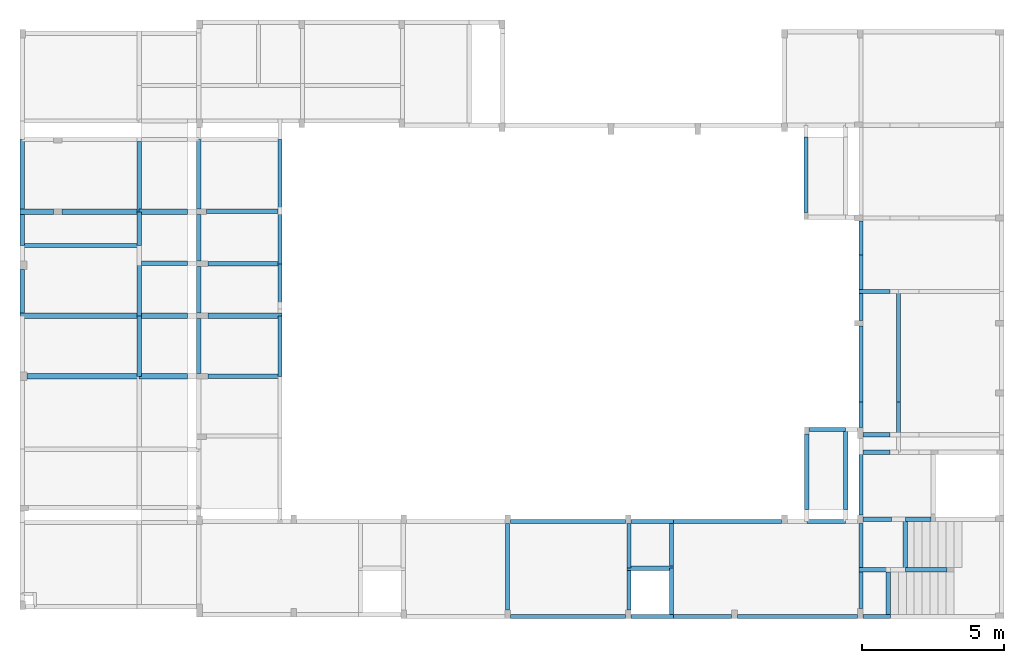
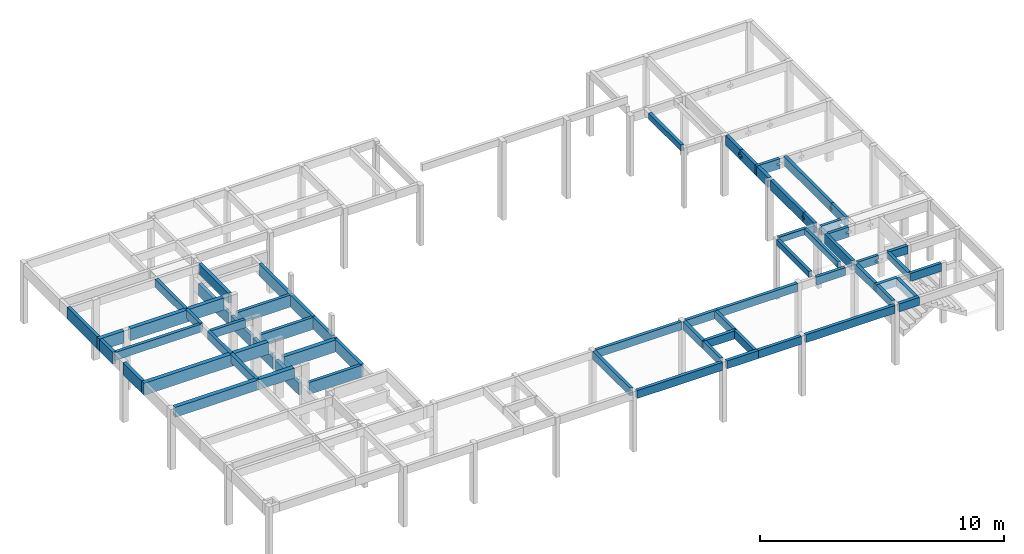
# One storey, part 2 of 21: 67 beams, 10 openings.
"""IFC4 building model written with IfcOpenShell, lengths in centimetres."""

from ifc_helpers import new_model, si_unit, derived_unit, frame, origin_with_axes, origin_2d_with_axis, place, context, project, spatial, rectangle, extrude, material, element, save


model = new_model("IFC4")

# Units and contexts
model_context = context("Model", 3, precision=1e-05, world=origin_with_axes(), identifier="Body")
ifc_project = project(units=[si_unit("LENGTHUNIT", "METRE", prefix="CENTI"), si_unit("VOLUMEUNIT", "CUBIC_METRE"), si_unit("AREAUNIT", "SQUARE_METRE"), si_unit("POWERUNIT", "WATT"), si_unit("LUMINOUSFLUXUNIT", "LUMEN"), si_unit("ELECTRICCURRENTUNIT", "AMPERE"), si_unit("PRESSUREUNIT", "PASCAL", prefix="KILO"), si_unit("MASSUNIT", "GRAM", prefix="KILO"), si_unit("PLANEANGLEUNIT", "RADIAN"), derived_unit("VOLUMETRICFLOWRATEUNIT", [(si_unit("LENGTHUNIT", "METRE"), 3), (si_unit("TIMEUNIT", "SECOND"), -1)])], contexts=[model_context])

# Site, building, storey
site_placement = place(None, origin_with_axes())
site = spatial("IfcSite", under=ifc_project, at=site_placement)
building_placement = place(site_placement, frame((0.0, 0.0, -295.0)))
building = spatial("IfcBuilding", under=site, at=building_placement)
placement_1 = place(building_placement, origin_with_axes())
placement_2 = place(placement_1, frame((0.0, 0.0, 101.0), z_axis=(0.0, 0.0, 1.0), x_axis=(1.0, 0.0, 0.0)))
placement_3 = place(placement_2, frame((0.0, 0.0, 204.0), z_axis=(0.0, 0.0, 1.0), x_axis=(1.0, 0.0, 0.0)))
placement_4 = place(placement_3, frame((0.0, 0.0, 292.0), z_axis=(0.0, 0.0, 1.0), x_axis=(1.0, 0.0, 0.0)))
storey_placement = place(placement_4, frame((0.0, 0.0, 302.0), z_axis=(0.0, 0.0, 1.0), x_axis=(1.0, 0.0, 0.0)))
storey = spatial("IfcBuildingStorey", under=building, at=storey_placement, Name="PAVTO 02", CompositionType="ELEMENT", Elevation=604.0)

# Beams
ifc_material = material(Name="Concreto")
beam_1_placement = place(storey_placement, frame((610.33, -5746.84, 0.0), z_axis=(0.0, 0.0, 1.0), x_axis=(1.0, 0.0, 0.0)))
element("IfcBeam", 1, at=beam_1_placement, inside=storey, material=ifc_material, Name="V211", context=model_context, shape_type="SolidModel", body=[
    extrude(rectangle(XDim=20.0, YDim=60.0, at=origin_2d_with_axis()), frame((-58.6, 0.0, -30.0), z_axis=(1.0, 0.0, 0.0), x_axis=(0.0, -1.0, 0.0)), (0.0, 0.0, 1.0), 117.2),
])
beam_2_placement = place(storey_placement, frame((1056.235, -5746.84, 0.0), z_axis=(0.0, 0.0, 1.0), x_axis=(1.0, 0.0, 0.0)))
element("IfcBeam", 2, at=beam_2_placement, inside=storey, material=ifc_material, Name="V211", context=model_context, shape_type="SolidModel", body=[
    extrude(rectangle(XDim=20.0, YDim=60.0, at=origin_2d_with_axis()), frame((-84.665, 0.0, -30.0), z_axis=(1.0, 0.0, 0.0), x_axis=(0.0, -1.0, 0.0)), (0.0, 0.0, 1.0), 169.33),
])
beam_3_placement = place(storey_placement, frame((835.25, -5746.84, 0.0), z_axis=(0.0, 0.0, 1.0), x_axis=(1.0, 0.0, 0.0)))
element("IfcBeam", 3, at=beam_3_placement, inside=storey, material=ifc_material, Name="V211", context=model_context, shape_type="SolidModel", body=[
    extrude(rectangle(XDim=20.0, YDim=60.0, at=origin_2d_with_axis()), frame((-136.32, 0.0, -30.0), z_axis=(1.0, 0.0, 0.0), x_axis=(0.0, -1.0, 0.0)), (0.0, 0.0, 1.0), 272.64),
])
beam_4_placement = place(storey_placement, frame((765.4, -5865.05, 0.0), z_axis=(0.0, 0.0, 1.0), x_axis=(1.0, 0.0, 0.0)))
element("IfcBeam", 4, at=beam_4_placement, inside=storey, material=ifc_material, Name="V214", context=model_context, shape_type="SolidModel", body=[
    extrude(rectangle(XDim=15.0, YDim=40.0, at=origin_2d_with_axis()), frame((-206.17, 0.0, -20.0), z_axis=(1.0, 0.0, 0.0), x_axis=(0.0, -1.0, 0.0)), (0.0, 0.0, 1.0), 412.34),
])
beam_5_placement = place(storey_placement, frame((1059.985, -5927.35, 0.0), z_axis=(0.0, 0.0, 1.0), x_axis=(1.0, 0.0, 0.0)))
element("IfcBeam", 5, at=beam_5_placement, inside=storey, material=ifc_material, Name="V215", context=model_context, shape_type="SolidModel", body=[
    extrude(rectangle(XDim=15.0, YDim=40.0, at=origin_2d_with_axis()), frame((-80.915, 0.0, -20.0), z_axis=(1.0, 0.0, 0.0), x_axis=(0.0, -1.0, 0.0)), (0.0, 0.0, 1.0), 161.83),
])

# Beam, opening
beam_6_placement = place(storey_placement, frame((3560.565, -6027.05, 0.0), z_axis=(0.0, 0.0, 1.0), x_axis=(1.0, 0.0, 0.0)))
beam_6 = element("IfcBeam", 6, at=beam_6_placement, inside=storey, material=ifc_material, Name="V216", context=model_context, shape_type="SolidModel", body=[
    extrude(rectangle(XDim=15.0, YDim=50.0, at=origin_2d_with_axis()), frame((-54.835, 0.0, -25.0), z_axis=(1.0, 0.0, 0.0), x_axis=(0.0, -1.0, 0.0)), (0.0, 0.0, 1.0), 109.67),
])
opening_1_placement = place(storey_placement, frame((3615.4, -6027.05, -20.0), z_axis=(0.0, 0.0, 1.0), x_axis=(1.0, 0.0, 0.0)))
element("IfcOpeningElement", 7, at=opening_1_placement, cuts=beam_6, material=ifc_material, Name="V216 - Abertura 1", context=model_context, shape_type="SweptSolid", body=[
    extrude(rectangle(XDim=25.0, YDim=10.0, at=origin_2d_with_axis()), frame((0.0, -7.6, -5.0), z_axis=(0.0, 1.0, 0.0), x_axis=(-1.0, 0.0, 0.0)), (0.0, 0.0, 1.0), 15.2),
])

# Beams
beam_7_placement = place(storey_placement, frame((1056.235, -6112.7, 0.0), z_axis=(0.0, 0.0, 1.0), x_axis=(1.0, 0.0, 0.0)))
element("IfcBeam", 8, at=beam_7_placement, inside=storey, material=ifc_material, Name="V217", context=model_context, shape_type="SolidModel", body=[
    extrude(rectangle(XDim=20.0, YDim=60.0, at=origin_2d_with_axis()), frame((-84.665, 0.0, -30.0), z_axis=(1.0, 0.0, 0.0), x_axis=(0.0, -1.0, 0.0)), (0.0, 0.0, 1.0), 169.33),
])
beam_8_placement = place(storey_placement, frame((761.65, -6112.7, 0.0), z_axis=(0.0, 0.0, 1.0), x_axis=(1.0, 0.0, 0.0)))
element("IfcBeam", 9, at=beam_8_placement, inside=storey, material=ifc_material, Name="V217", context=model_context, shape_type="SolidModel", body=[
    extrude(rectangle(XDim=20.0, YDim=60.0, at=origin_2d_with_axis()), frame((-209.92, 0.0, -30.0), z_axis=(1.0, 0.0, 0.0), x_axis=(0.0, -1.0, 0.0)), (0.0, 0.0, 1.0), 419.84),
])
beam_9_placement = place(storey_placement, frame((1056.235, -6325.62, 0.0), z_axis=(0.0, 0.0, 1.0), x_axis=(1.0, 0.0, 0.0)))
element("IfcBeam", 10, at=beam_9_placement, inside=storey, material=ifc_material, Name="V218", context=model_context, shape_type="SolidModel", body=[
    extrude(rectangle(XDim=20.0, YDim=50.0, at=origin_2d_with_axis()), frame((-84.665, 0.0, -25.0), z_axis=(1.0, 0.0, 0.0), x_axis=(0.0, -1.0, 0.0)), (0.0, 0.0, 1.0), 169.33),
])
beam_10_placement = place(storey_placement, frame((774.15, -6325.62, 0.0), z_axis=(0.0, 0.0, 1.0), x_axis=(1.0, 0.0, 0.0)))
element("IfcBeam", 11, at=beam_10_placement, inside=storey, material=ifc_material, Name="V218", context=model_context, shape_type="SolidModel", body=[
    extrude(rectangle(XDim=20.0, YDim=50.0, at=origin_2d_with_axis()), frame((-197.42, 0.0, -25.0), z_axis=(1.0, 0.0, 0.0), x_axis=(0.0, -1.0, 0.0)), (0.0, 0.0, 1.0), 394.84),
])
beam_11_placement = place(storey_placement, frame((3394.48, -6513.05, 0.0), z_axis=(0.0, 0.0, 1.0), x_axis=(1.0, 0.0, 0.0)))
element("IfcBeam", 12, at=beam_11_placement, inside=storey, material=ifc_material, Name="V219", context=model_context, shape_type="SolidModel", body=[
    extrude(rectangle(XDim=15.0, YDim=30.0, at=origin_2d_with_axis()), frame((-64.75, 0.0, -15.0), z_axis=(1.0, 0.0, 0.0), x_axis=(0.0, -1.0, 0.0)), (0.0, 0.0, 1.0), 129.5),
])

# Beam, opening
beam_12_placement = place(storey_placement, frame((3568.065, -6532.05, 0.0), z_axis=(0.0, 0.0, 1.0), x_axis=(1.0, 0.0, 0.0)))
beam_12 = element("IfcBeam", 13, at=beam_12_placement, inside=storey, material=ifc_material, Name="V220", context=model_context, shape_type="SolidModel", body=[
    extrude(rectangle(XDim=15.0, YDim=45.0, at=origin_2d_with_axis()), frame((-47.335, 0.0, -22.5), z_axis=(1.0, 0.0, 0.0), x_axis=(0.0, -1.0, 0.0)), (0.0, 0.0, 1.0), 94.67),
])
opening_2_placement = place(storey_placement, frame((3615.4, -6532.05, -20.0), z_axis=(0.0, 0.0, 1.0), x_axis=(1.0, 0.0, 0.0)))
element("IfcOpeningElement", 14, at=opening_2_placement, cuts=beam_12, material=ifc_material, Name="V220 - Abertura 1", context=model_context, shape_type="SweptSolid", body=[
    extrude(rectangle(XDim=25.0, YDim=10.0, at=origin_2d_with_axis()), frame((0.0, -7.6, -5.0), z_axis=(0.0, 1.0, 0.0), x_axis=(-1.0, 0.0, 0.0)), (0.0, 0.0, 1.0), 15.2),
])

beam_13_placement = place(storey_placement, frame((3568.065, -6592.81, 0.0), z_axis=(0.0, 0.0, 1.0), x_axis=(1.0, 0.0, 0.0)))
beam_13 = element("IfcBeam", 15, at=beam_13_placement, inside=storey, material=ifc_material, Name="V223", context=model_context, shape_type="SolidModel", body=[
    extrude(rectangle(XDim=15.0, YDim=50.0, at=origin_2d_with_axis()), frame((-47.335, 0.0, -25.0), z_axis=(1.0, 0.0, 0.0), x_axis=(0.0, -1.0, 0.0)), (0.0, 0.0, 1.0), 94.67),
])
opening_3_placement = place(storey_placement, frame((3615.4, -6592.81, -20.0), z_axis=(0.0, 0.0, 1.0), x_axis=(1.0, 0.0, 0.0)))
element("IfcOpeningElement", 16, at=opening_3_placement, cuts=beam_13, material=ifc_material, Name="V223 - Abertura 1", context=model_context, shape_type="SweptSolid", body=[
    extrude(rectangle(XDim=25.0, YDim=10.0, at=origin_2d_with_axis()), frame((0.0, -7.6, -5.0), z_axis=(0.0, 1.0, 0.0), x_axis=(-1.0, 0.0, 0.0)), (0.0, 0.0, 1.0), 15.2),
])

# Beams
beam_14_placement = place(storey_placement, frame((3039.915, -6836.7, 0.0), z_axis=(0.0, 0.0, 1.0), x_axis=(1.0, 0.0, 0.0)))
element("IfcBeam", 17, at=beam_14_placement, inside=storey, material=ifc_material, Name="V227", context=model_context, shape_type="SolidModel", body=[
    extrude(rectangle(XDim=15.0, YDim=40.0, at=origin_2d_with_axis()), frame((-193.815, 0.0, -20.0), z_axis=(1.0, 0.0, 0.0), x_axis=(0.0, -1.0, 0.0)), (0.0, 0.0, 1.0), 387.63),
])
beam_15_placement = place(storey_placement, frame((2481.165, -6836.7, 0.0), z_axis=(0.0, 0.0, 1.0), x_axis=(1.0, 0.0, 0.0)))
element("IfcBeam", 18, at=beam_15_placement, inside=storey, material=ifc_material, Name="V227", context=model_context, shape_type="SolidModel", body=[
    extrude(rectangle(XDim=15.0, YDim=40.0, at=origin_2d_with_axis()), frame((-202.435, 0.0, -20.0), z_axis=(1.0, 0.0, 0.0), x_axis=(0.0, -1.0, 0.0)), (0.0, 0.0, 1.0), 404.87),
])
beam_16_placement = place(storey_placement, frame((3390.73, -6836.7, 0.0), z_axis=(0.0, 0.0, 1.0), x_axis=(1.0, 0.0, 0.0)))
element("IfcBeam", 19, at=beam_16_placement, inside=storey, material=ifc_material, Name="V227", context=model_context, shape_type="SolidModel", body=[
    extrude(rectangle(XDim=15.0, YDim=40.0, at=origin_2d_with_axis()), frame((-68.5, 0.0, -20.0), z_axis=(1.0, 0.0, 0.0), x_axis=(0.0, -1.0, 0.0)), (0.0, 0.0, 1.0), 137.0),
])
beam_17_placement = place(storey_placement, frame((2778.6, -6836.7, 0.0), z_axis=(0.0, 0.0, 1.0), x_axis=(1.0, 0.0, 0.0)))
element("IfcBeam", 20, at=beam_17_placement, inside=storey, material=ifc_material, Name="V227", context=model_context, shape_type="SolidModel", body=[
    extrude(rectangle(XDim=15.0, YDim=40.0, at=origin_2d_with_axis()), frame((-75.0, 0.0, -20.0), z_axis=(1.0, 0.0, 0.0), x_axis=(0.0, -1.0, 0.0)), (0.0, 0.0, 1.0), 150.0),
])
beam_18_placement = place(storey_placement, frame((3714.495, -6828.79, 0.0), z_axis=(0.0, 0.0, 1.0), x_axis=(1.0, 0.0, 0.0)))
element("IfcBeam", 21, at=beam_18_placement, inside=storey, material=ifc_material, Name="V228", context=model_context, shape_type="SolidModel", body=[
    extrude(rectangle(XDim=15.0, YDim=40.0, at=origin_2d_with_axis()), frame((-45.235, 0.0, -20.0), z_axis=(1.0, 0.0, 0.0), x_axis=(0.0, -1.0, 0.0)), (0.0, 0.0, 1.0), 90.47),
])

# Beam, opening
beam_19_placement = place(storey_placement, frame((3570.565, -6828.79, 0.0), z_axis=(0.0, 0.0, 1.0), x_axis=(1.0, 0.0, 0.0)))
beam_19 = element("IfcBeam", 22, at=beam_19_placement, inside=storey, material=ifc_material, Name="V228", context=model_context, shape_type="SolidModel", body=[
    extrude(rectangle(XDim=15.0, YDim=40.0, at=origin_2d_with_axis()), frame((-49.835, 0.0, -20.0), z_axis=(1.0, 0.0, 0.0), x_axis=(0.0, -1.0, 0.0)), (0.0, 0.0, 1.0), 99.67),
])
opening_4_placement = place(storey_placement, frame((3620.4, -6828.79, -20.0), z_axis=(0.0, 0.0, 1.0), x_axis=(1.0, 0.0, 0.0)))
element("IfcOpeningElement", 23, at=opening_4_placement, cuts=beam_19, material=ifc_material, Name="V228 - Abertura 1", context=model_context, shape_type="SweptSolid", body=[
    extrude(rectangle(XDim=35.0, YDim=10.0, at=origin_2d_with_axis()), frame((0.0, -7.6, -5.0), z_axis=(0.0, 1.0, 0.0), x_axis=(-1.0, 0.0, 0.0)), (0.0, 0.0, 1.0), 15.2),
])

# Beams
beam_20_placement = place(storey_placement, frame((2771.1, -7001.64, 0.0), z_axis=(0.0, 0.0, 1.0), x_axis=(1.0, 0.0, 0.0)))
element("IfcBeam", 24, at=beam_20_placement, inside=storey, material=ifc_material, Name="V230", context=model_context, shape_type="SolidModel", body=[
    extrude(rectangle(XDim=15.0, YDim=40.0, at=origin_2d_with_axis()), frame((-82.5, 0.0, -20.0), z_axis=(1.0, 0.0, 0.0), x_axis=(0.0, -1.0, 0.0)), (0.0, 0.0, 1.0), 165.0),
])
beam_21_placement = place(storey_placement, frame((3557.41, -7006.81, 0.0), z_axis=(0.0, 0.0, 1.0), x_axis=(1.0, 0.0, 0.0)))
element("IfcBeam", 25, at=beam_21_placement, inside=storey, material=ifc_material, Name="V231", context=model_context, shape_type="SolidModel", body=[
    extrude(rectangle(XDim=15.0, YDim=40.0, at=origin_2d_with_axis()), frame((-51.68, 0.0, -20.0), z_axis=(1.0, 0.0, 0.0), x_axis=(0.0, -1.0, 0.0)), (0.0, 0.0, 1.0), 103.36),
])
beam_22_placement = place(storey_placement, frame((3742.425, -7006.81, 0.0), z_axis=(0.0, 0.0, 1.0), x_axis=(1.0, 0.0, 0.0)))
element("IfcBeam", 26, at=beam_22_placement, inside=storey, material=ifc_material, Name="V231", context=model_context, shape_type="SolidModel", body=[
    extrude(rectangle(XDim=15.0, YDim=40.0, at=origin_2d_with_axis()), frame((-73.165, 0.0, -20.0), z_axis=(1.0, 0.0, 0.0), x_axis=(0.0, -1.0, 0.0)), (0.0, 0.0, 1.0), 146.33),
])
beam_23_placement = place(storey_placement, frame((2778.6, -7171.81, 0.0), z_axis=(0.0, 0.0, 1.0), x_axis=(1.0, 0.0, 0.0)))
element("IfcBeam", 27, at=beam_23_placement, inside=storey, material=ifc_material, Name="V235", context=model_context, shape_type="SolidModel", body=[
    extrude(rectangle(XDim=15.0, YDim=40.0, at=origin_2d_with_axis()), frame((-75.0, 0.0, -20.0), z_axis=(1.0, 0.0, 0.0), x_axis=(0.0, -1.0, 0.0)), (0.0, 0.0, 1.0), 150.0),
])
beam_24_placement = place(storey_placement, frame((3289.135, -7171.81, 0.0), z_axis=(0.0, 0.0, 1.0), x_axis=(1.0, 0.0, 0.0)))
element("IfcBeam", 28, at=beam_24_placement, inside=storey, material=ifc_material, Name="V235", context=model_context, shape_type="SolidModel", body=[
    extrude(rectangle(XDim=15.0, YDim=40.0, at=origin_2d_with_axis()), frame((-211.595, 0.0, -20.0), z_axis=(1.0, 0.0, 0.0), x_axis=(0.0, -1.0, 0.0)), (0.0, 0.0, 1.0), 423.19),
])
beam_25_placement = place(storey_placement, frame((2951.82, -7171.81, 0.0), z_axis=(0.0, 0.0, 1.0), x_axis=(1.0, 0.0, 0.0)))
element("IfcBeam", 29, at=beam_25_placement, inside=storey, material=ifc_material, Name="V235", context=model_context, shape_type="SolidModel", body=[
    extrude(rectangle(XDim=15.0, YDim=40.0, at=origin_2d_with_axis()), frame((-105.72, 0.0, -20.0), z_axis=(1.0, 0.0, 0.0), x_axis=(0.0, -1.0, 0.0)), (0.0, 0.0, 1.0), 211.44),
])
beam_26_placement = place(storey_placement, frame((3568.66, -7171.81, 0.0), z_axis=(0.0, 0.0, 1.0), x_axis=(1.0, 0.0, 0.0)))
element("IfcBeam", 30, at=beam_26_placement, inside=storey, material=ifc_material, Name="V235", context=model_context, shape_type="SolidModel", body=[
    extrude(rectangle(XDim=15.0, YDim=40.0, at=origin_2d_with_axis()), frame((-47.93, 0.0, -20.0), z_axis=(1.0, 0.0, 0.0), x_axis=(0.0, -1.0, 0.0)), (0.0, 0.0, 1.0), 95.86),
])
beam_27_placement = place(storey_placement, frame((2481.165, -7171.81, 0.0), z_axis=(0.0, 0.0, 1.0), x_axis=(1.0, 0.0, 0.0)))
element("IfcBeam", 31, at=beam_27_placement, inside=storey, material=ifc_material, Name="V235", context=model_context, shape_type="SolidModel", body=[
    extrude(rectangle(XDim=15.0, YDim=40.0, at=origin_2d_with_axis()), frame((-202.435, 0.0, -20.0), z_axis=(1.0, 0.0, 0.0), x_axis=(0.0, -1.0, 0.0)), (0.0, 0.0, 1.0), 404.87),
])
beam_28_placement = place(storey_placement, frame((559.23, -6026.275, 0.0), z_axis=(0.0, 0.0, 1.0), x_axis=(1.0, 0.0, 0.0)))
element("IfcBeam", 32, at=beam_28_placement, inside=storey, material=ifc_material, Name="V237", context=model_context, shape_type="SolidModel", body=[
    extrude(rectangle(XDim=15.0, YDim=60.0, at=origin_2d_with_axis()), frame((0.0, -76.425, -30.0), z_axis=(0.0, 1.0, 0.0), x_axis=(1.0, 0.0, 0.0)), (0.0, 0.0, 1.0), 152.85),
])
beam_29_placement = place(storey_placement, frame((559.23, -5619.25, 0.0), z_axis=(0.0, 0.0, 1.0), x_axis=(1.0, 0.0, 0.0)))
element("IfcBeam", 33, at=beam_29_placement, inside=storey, material=ifc_material, Name="V237", context=model_context, shape_type="SolidModel", body=[
    extrude(rectangle(XDim=15.0, YDim=60.0, at=origin_2d_with_axis()), frame((0.0, -127.59, -30.0), z_axis=(0.0, 1.0, 0.0), x_axis=(1.0, 0.0, 0.0)), (0.0, 0.0, 1.0), 255.18),
])
beam_30_placement = place(storey_placement, frame((559.23, -5810.945, 0.0), z_axis=(0.0, 0.0, 1.0), x_axis=(1.0, 0.0, 0.0)))
element("IfcBeam", 34, at=beam_30_placement, inside=storey, material=ifc_material, Name="V237", context=model_context, shape_type="SolidModel", body=[
    extrude(rectangle(XDim=15.0, YDim=60.0, at=origin_2d_with_axis()), frame((0.0, -54.105, -30.0), z_axis=(0.0, 1.0, 0.0), x_axis=(1.0, 0.0, 0.0)), (0.0, 0.0, 1.0), 108.21),
])
beam_31_placement = place(storey_placement, frame((971.57, -6219.16, 0.0), z_axis=(0.0, 0.0, 1.0), x_axis=(1.0, 0.0, 0.0)))
element("IfcBeam", 35, at=beam_31_placement, inside=storey, material=ifc_material, Name="V239", context=model_context, shape_type="SolidModel", body=[
    extrude(rectangle(XDim=15.0, YDim=40.0, at=origin_2d_with_axis()), frame((0.0, -106.46, -20.0), z_axis=(0.0, 1.0, 0.0), x_axis=(1.0, 0.0, 0.0)), (0.0, 0.0, 1.0), 212.92),
])
beam_32_placement = place(storey_placement, frame((971.57, -6020.025, 0.0), z_axis=(0.0, 0.0, 1.0), x_axis=(1.0, 0.0, 0.0)))
element("IfcBeam", 36, at=beam_32_placement, inside=storey, material=ifc_material, Name="V239", context=model_context, shape_type="SolidModel", body=[
    extrude(rectangle(XDim=15.0, YDim=40.0, at=origin_2d_with_axis()), frame((0.0, -92.675, -20.0), z_axis=(0.0, 1.0, 0.0), x_axis=(1.0, 0.0, 0.0)), (0.0, 0.0, 1.0), 185.35),
])
beam_33_placement = place(storey_placement, frame((971.57, -5623.0, 0.0), z_axis=(0.0, 0.0, 1.0), x_axis=(1.0, 0.0, 0.0)))
element("IfcBeam", 37, at=beam_33_placement, inside=storey, material=ifc_material, Name="V239", context=model_context, shape_type="SolidModel", body=[
    extrude(rectangle(XDim=15.0, YDim=40.0, at=origin_2d_with_axis()), frame((0.0, -123.84, -20.0), z_axis=(0.0, 1.0, 0.0), x_axis=(1.0, 0.0, 0.0)), (0.0, 0.0, 1.0), 247.68),
])
beam_34_placement = place(storey_placement, frame((971.57, -5805.945, 0.0), z_axis=(0.0, 0.0, 1.0), x_axis=(1.0, 0.0, 0.0)))
element("IfcBeam", 38, at=beam_34_placement, inside=storey, material=ifc_material, Name="V239", context=model_context, shape_type="SolidModel", body=[
    extrude(rectangle(XDim=15.0, YDim=40.0, at=origin_2d_with_axis()), frame((0.0, -59.105, -20.0), z_axis=(0.0, 1.0, 0.0), x_axis=(1.0, 0.0, 0.0)), (0.0, 0.0, 1.0), 118.21),
])
beam_35_placement = place(storey_placement, frame((1181.4, -5614.25, 0.0), z_axis=(0.0, 0.0, 1.0), x_axis=(1.0, 0.0, 0.0)))
element("IfcBeam", 39, at=beam_35_placement, inside=storey, material=ifc_material, Name="V242", context=model_context, shape_type="SolidModel", body=[
    extrude(rectangle(XDim=15.0, YDim=50.0, at=origin_2d_with_axis()), frame((0.0, -122.59, -25.0), z_axis=(0.0, 1.0, 0.0), x_axis=(1.0, 0.0, 0.0)), (0.0, 0.0, 1.0), 245.18),
])
beam_36_placement = place(storey_placement, frame((2268.73, -6996.755, 0.0), z_axis=(0.0, 0.0, 1.0), x_axis=(1.0, 0.0, 0.0)))
element("IfcBeam", 40, at=beam_36_placement, inside=storey, material=ifc_material, Name="V251", context=model_context, shape_type="SolidModel", body=[
    extrude(rectangle(XDim=15.0, YDim=40.0, at=origin_2d_with_axis()), frame((0.0, -152.555, -20.0), z_axis=(0.0, 1.0, 0.0), x_axis=(1.0, 0.0, 0.0)), (0.0, 0.0, 1.0), 305.11),
])
beam_37_placement = place(storey_placement, frame((2696.1, -7079.225, 0.0), z_axis=(0.0, 0.0, 1.0), x_axis=(1.0, 0.0, 0.0)))
element("IfcBeam", 41, at=beam_37_placement, inside=storey, material=ifc_material, Name="V253", context=model_context, shape_type="SolidModel", body=[
    extrude(rectangle(XDim=15.0, YDim=40.0, at=origin_2d_with_axis()), frame((0.0, -70.085, -20.0), z_axis=(0.0, 1.0, 0.0), x_axis=(1.0, 0.0, 0.0)), (0.0, 0.0, 1.0), 140.17),
])
beam_38_placement = place(storey_placement, frame((2696.1, -6922.92, 0.0), z_axis=(0.0, 0.0, 1.0), x_axis=(1.0, 0.0, 0.0)))
element("IfcBeam", 42, at=beam_38_placement, inside=storey, material=ifc_material, Name="V253", context=model_context, shape_type="SolidModel", body=[
    extrude(rectangle(XDim=15.0, YDim=40.0, at=origin_2d_with_axis()), frame((0.0, -78.72, -20.0), z_axis=(0.0, 1.0, 0.0), x_axis=(1.0, 0.0, 0.0)), (0.0, 0.0, 1.0), 157.44),
])
beam_39_placement = place(storey_placement, frame((2846.1, -7082.975, 0.0), z_axis=(0.0, 0.0, 1.0), x_axis=(1.0, 0.0, 0.0)))
element("IfcBeam", 43, at=beam_39_placement, inside=storey, material=ifc_material, Name="V254", context=model_context, shape_type="SolidModel", body=[
    extrude(rectangle(XDim=15.0, YDim=40.0, at=origin_2d_with_axis()), frame((0.0, -81.335, -20.0), z_axis=(0.0, 1.0, 0.0), x_axis=(1.0, 0.0, 0.0)), (0.0, 0.0, 1.0), 162.67),
])
beam_40_placement = place(storey_placement, frame((2846.1, -6919.17, 0.0), z_axis=(0.0, 0.0, 1.0), x_axis=(1.0, 0.0, 0.0)))
element("IfcBeam", 44, at=beam_40_placement, inside=storey, material=ifc_material, Name="V254", context=model_context, shape_type="SolidModel", body=[
    extrude(rectangle(XDim=15.0, YDim=40.0, at=origin_2d_with_axis()), frame((0.0, -74.97, -20.0), z_axis=(0.0, 1.0, 0.0), x_axis=(1.0, 0.0, 0.0)), (0.0, 0.0, 1.0), 149.94),
])
beam_41_placement = place(storey_placement, frame((3322.23, -6661.7, 0.0), z_axis=(0.0, 0.0, 1.0), x_axis=(1.0, 0.0, 0.0)))
element("IfcBeam", 45, at=beam_41_placement, inside=storey, material=ifc_material, Name="V256", context=model_context, shape_type="SolidModel", body=[
    extrude(rectangle(XDim=15.0, YDim=30.0, at=origin_2d_with_axis()), frame((0.0, -132.5, -15.0), z_axis=(0.0, 1.0, 0.0), x_axis=(1.0, 0.0, 0.0)), (0.0, 0.0, 1.0), 265.0),
])
beam_42_placement = place(storey_placement, frame((3319.4, -5615.41, 0.0), z_axis=(0.0, 0.0, 1.0), x_axis=(1.0, 0.0, 0.0)))
element("IfcBeam", 46, at=beam_42_placement, inside=storey, material=ifc_material, Name="V257", context=model_context, shape_type="SolidModel", body=[
    extrude(rectangle(XDim=15.0, YDim=30.0, at=origin_2d_with_axis()), frame((0.0, -133.14, -15.0), z_axis=(0.0, 1.0, 0.0), x_axis=(1.0, 0.0, 0.0)), (0.0, 0.0, 1.0), 266.28),
])
beam_43_placement = place(storey_placement, frame((3459.23, -6653.625, 0.0), z_axis=(0.0, 0.0, 1.0), x_axis=(1.0, 0.0, 0.0)))
element("IfcBeam", 47, at=beam_43_placement, inside=storey, material=ifc_material, Name="V258", context=model_context, shape_type="SolidModel", body=[
    extrude(rectangle(XDim=15.0, YDim=30.0, at=origin_2d_with_axis()), frame((0.0, -140.575, -15.0), z_axis=(0.0, 1.0, 0.0), x_axis=(1.0, 0.0, 0.0)), (0.0, 0.0, 1.0), 281.15),
])
beam_44_placement = place(storey_placement, frame((3513.23, -6081.55, 0.0), z_axis=(0.0, 0.0, 1.0), x_axis=(1.0, 0.0, 0.0)))
element("IfcBeam", 48, at=beam_44_placement, inside=storey, material=ifc_material, Name="V260", context=model_context, shape_type="SolidModel", body=[
    extrude(rectangle(XDim=15.0, YDim=50.0, at=origin_2d_with_axis()), frame((0.0, -47.0, -25.0), z_axis=(0.0, 1.0, 0.0), x_axis=(1.0, 0.0, 0.0)), (0.0, 0.0, 1.0), 94.0),
])
beam_45_placement = place(storey_placement, frame((3513.23, -6925.505, 0.0), z_axis=(0.0, 0.0, 1.0), x_axis=(1.0, 0.0, 0.0)))
element("IfcBeam", 49, at=beam_45_placement, inside=storey, material=ifc_material, Name="V260", context=model_context, shape_type="SolidModel", body=[
    extrude(rectangle(XDim=15.0, YDim=40.0, at=origin_2d_with_axis()), frame((0.0, -81.305, -20.0), z_axis=(0.0, 1.0, 0.0), x_axis=(1.0, 0.0, 0.0)), (0.0, 0.0, 1.0), 162.61),
])
beam_46_placement = place(storey_placement, frame((3513.23, -7079.31, 0.0), z_axis=(0.0, 0.0, 1.0), x_axis=(1.0, 0.0, 0.0)))
element("IfcBeam", 50, at=beam_46_placement, inside=storey, material=ifc_material, Name="V260", context=model_context, shape_type="SolidModel", body=[
    extrude(rectangle(XDim=15.0, YDim=40.0, at=origin_2d_with_axis()), frame((0.0, -65.0, -20.0), z_axis=(0.0, 1.0, 0.0), x_axis=(1.0, 0.0, 0.0)), (0.0, 0.0, 1.0), 130.0),
])

# Beam, opening
beam_47_placement = place(storey_placement, frame((3513.23, -6460.55, 0.0), z_axis=(0.0, 0.0, 1.0), x_axis=(1.0, 0.0, 0.0)))
beam_47 = element("IfcBeam", 51, at=beam_47_placement, inside=storey, material=ifc_material, Name="V260", context=model_context, shape_type="SolidModel", body=[
    extrude(rectangle(XDim=15.0, YDim=50.0, at=origin_2d_with_axis()), frame((0.0, -45.0, -25.0), z_axis=(0.0, 1.0, 0.0), x_axis=(1.0, 0.0, 0.0)), (0.0, 0.0, 1.0), 90.0),
])
opening_5_placement = place(storey_placement, frame((3513.23, -6415.55, -20.0), z_axis=(0.0, 0.0, 1.0), x_axis=(1.0, 0.0, 0.0)))
element("IfcOpeningElement", 52, at=opening_5_placement, cuts=beam_47, material=ifc_material, Name="V260 - Abertura 1", context=model_context, shape_type="SweptSolid", body=[
    extrude(rectangle(XDim=20.0, YDim=10.0, at=origin_2d_with_axis()), frame((7.6, 0.0, -5.0), z_axis=(-1.0, 0.0, 0.0), x_axis=(0.0, -1.0, 0.0)), (0.0, 0.0, 1.0), 15.2),
])

beam_48_placement = place(storey_placement, frame((3513.23, -5838.55, 0.0), z_axis=(0.0, 0.0, 1.0), x_axis=(1.0, 0.0, 0.0)))
beam_48 = element("IfcBeam", 53, at=beam_48_placement, inside=storey, material=ifc_material, Name="V260", context=model_context, shape_type="SolidModel", body=[
    extrude(rectangle(XDim=15.0, YDim=50.0, at=origin_2d_with_axis()), frame((0.0, -60.0, -25.0), z_axis=(0.0, 1.0, 0.0), x_axis=(1.0, 0.0, 0.0)), (0.0, 0.0, 1.0), 120.0),
])
opening_6_placement = place(storey_placement, frame((3513.23, -5898.55, -20.0), z_axis=(0.0, 0.0, 1.0), x_axis=(1.0, 0.0, 0.0)))
element("IfcOpeningElement", 54, at=opening_6_placement, cuts=beam_48, material=ifc_material, Name="V260 - Abertura 1", context=model_context, shape_type="SweptSolid", body=[
    extrude(rectangle(XDim=30.0, YDim=15.0, at=origin_2d_with_axis()), frame((7.6, 0.0, -7.5), z_axis=(-1.0, 0.0, 0.0), x_axis=(0.0, -1.0, 0.0)), (0.0, 0.0, 1.0), 15.2),
])

# Beam
beam_49_placement = place(storey_placement, frame((3513.23, -6703.505, 0.0), z_axis=(0.0, 0.0, 1.0), x_axis=(1.0, 0.0, 0.0)))
element("IfcBeam", 55, at=beam_49_placement, inside=storey, material=ifc_material, Name="V260", context=model_context, shape_type="SolidModel", body=[
    extrude(rectangle(XDim=15.0, YDim=50.0, at=origin_2d_with_axis()), frame((0.0, -110.695, -25.0), z_axis=(0.0, 1.0, 0.0), x_axis=(1.0, 0.0, 0.0)), (0.0, 0.0, 1.0), 221.39),
])

# Beam, opening
beam_50_placement = place(storey_placement, frame((3513.23, -5962.8, 0.0), z_axis=(0.0, 0.0, 1.0), x_axis=(1.0, 0.0, 0.0)))
beam_50 = element("IfcBeam", 56, at=beam_50_placement, inside=storey, material=ifc_material, Name="V260", context=model_context, shape_type="SolidModel", body=[
    extrude(rectangle(XDim=15.0, YDim=50.0, at=origin_2d_with_axis()), frame((0.0, -64.25, -25.0), z_axis=(0.0, 1.0, 0.0), x_axis=(1.0, 0.0, 0.0)), (0.0, 0.0, 1.0), 128.5),
])
opening_7_placement = place(storey_placement, frame((3513.23, -5898.55, -20.0), z_axis=(0.0, 0.0, 1.0), x_axis=(1.0, 0.0, 0.0)))
element("IfcOpeningElement", 57, at=opening_7_placement, cuts=beam_50, material=ifc_material, Name="V260 - Abertura 1", context=model_context, shape_type="SweptSolid", body=[
    extrude(rectangle(XDim=30.0, YDim=15.0, at=origin_2d_with_axis()), frame((7.6, 0.0, -7.5), z_axis=(-1.0, 0.0, 0.0), x_axis=(0.0, -1.0, 0.0)), (0.0, 0.0, 1.0), 15.2),
])

beam_51_placement = place(storey_placement, frame((3513.23, -6282.05, 0.0), z_axis=(0.0, 0.0, 1.0), x_axis=(1.0, 0.0, 0.0)))
beam_51 = element("IfcBeam", 58, at=beam_51_placement, inside=storey, material=ifc_material, Name="V260", context=model_context, shape_type="SolidModel", body=[
    extrude(rectangle(XDim=15.0, YDim=50.0, at=origin_2d_with_axis()), frame((0.0, -133.5, -25.0), z_axis=(0.0, 1.0, 0.0), x_axis=(1.0, 0.0, 0.0)), (0.0, 0.0, 1.0), 267.0),
])
opening_8_placement = place(storey_placement, frame((3513.23, -6415.55, -20.0), z_axis=(0.0, 0.0, 1.0), x_axis=(1.0, 0.0, 0.0)))
element("IfcOpeningElement", 59, at=opening_8_placement, cuts=beam_51, material=ifc_material, Name="V260 - Abertura 1", context=model_context, shape_type="SweptSolid", body=[
    extrude(rectangle(XDim=20.0, YDim=10.0, at=origin_2d_with_axis()), frame((7.6, 0.0, -5.0), z_axis=(-1.0, 0.0, 0.0), x_axis=(0.0, -1.0, 0.0)), (0.0, 0.0, 1.0), 15.2),
])

# Beams
beam_52_placement = place(storey_placement, frame((3609.09, -7089.31, 0.0), z_axis=(0.0, 0.0, 1.0), x_axis=(1.0, 0.0, 0.0)))
element("IfcBeam", 60, at=beam_52_placement, inside=storey, material=ifc_material, Name="V261", context=model_context, shape_type="SolidModel", body=[
    extrude(rectangle(XDim=15.0, YDim=40.0, at=origin_2d_with_axis()), frame((0.0, -75.0, -20.0), z_axis=(0.0, 1.0, 0.0), x_axis=(1.0, 0.0, 0.0)), (0.0, 0.0, 1.0), 150.0),
])
beam_53_placement = place(storey_placement, frame((3669.26, -6917.8, 0.0), z_axis=(0.0, 0.0, 1.0), x_axis=(1.0, 0.0, 0.0)))
element("IfcBeam", 61, at=beam_53_placement, inside=storey, material=ifc_material, Name="V262", context=model_context, shape_type="SolidModel", body=[
    extrude(rectangle(XDim=15.0, YDim=30.0, at=origin_2d_with_axis()), frame((0.0, -89.01, -15.0), z_axis=(0.0, 1.0, 0.0), x_axis=(1.0, 0.0, 0.0)), (0.0, 0.0, 1.0), 178.02),
])

# Beam, opening
beam_54_placement = place(storey_placement, frame((3645.4, -6473.8, 0.0), z_axis=(0.0, 0.0, 1.0), x_axis=(1.0, 0.0, 0.0)))
beam_54 = element("IfcBeam", 62, at=beam_54_placement, inside=storey, material=ifc_material, Name="V264", context=model_context, shape_type="SolidModel", body=[
    extrude(rectangle(XDim=15.0, YDim=45.0, at=origin_2d_with_axis()), frame((0.0, -58.25, -22.5), z_axis=(0.0, 1.0, 0.0), x_axis=(1.0, 0.0, 0.0)), (0.0, 0.0, 1.0), 116.5),
])
opening_9_placement = place(storey_placement, frame((3645.4, -6415.55, -20.0), z_axis=(0.0, 0.0, 1.0), x_axis=(1.0, 0.0, 0.0)))
element("IfcOpeningElement", 63, at=opening_9_placement, cuts=beam_54, material=ifc_material, Name="V264 - Abertura 1", context=model_context, shape_type="SweptSolid", body=[
    extrude(rectangle(XDim=20.0, YDim=10.0, at=origin_2d_with_axis()), frame((7.6, 0.0, -5.0), z_axis=(-1.0, 0.0, 0.0), x_axis=(0.0, -1.0, 0.0)), (0.0, 0.0, 1.0), 15.2),
])

beam_55_placement = place(storey_placement, frame((3645.4, -6221.3, 0.0), z_axis=(0.0, 0.0, 1.0), x_axis=(1.0, 0.0, 0.0)))
beam_55 = element("IfcBeam", 64, at=beam_55_placement, inside=storey, material=ifc_material, Name="V264", context=model_context, shape_type="SolidModel", body=[
    extrude(rectangle(XDim=15.0, YDim=45.0, at=origin_2d_with_axis()), frame((0.0, -194.25, -22.5), z_axis=(0.0, 1.0, 0.0), x_axis=(1.0, 0.0, 0.0)), (0.0, 0.0, 1.0), 388.5),
])
opening_10_placement = place(storey_placement, frame((3645.4, -6415.55, -20.0), z_axis=(0.0, 0.0, 1.0), x_axis=(1.0, 0.0, 0.0)))
element("IfcOpeningElement", 65, at=opening_10_placement, cuts=beam_55, material=ifc_material, Name="V264 - Abertura 1", context=model_context, shape_type="SweptSolid", body=[
    extrude(rectangle(XDim=20.0, YDim=10.0, at=origin_2d_with_axis()), frame((7.6, 0.0, -5.0), z_axis=(-1.0, 0.0, 0.0), x_axis=(0.0, -1.0, 0.0)), (0.0, 0.0, 1.0), 15.2),
])

# Beams
beam_56_placement = place(storey_placement, frame((1341.9, -5744.34, -100.0), z_axis=(0.0, 0.0, 1.0), x_axis=(1.0, 0.0, 0.0)))
element("IfcBeam", 66, at=beam_56_placement, inside=storey, material=ifc_material, Name="V269", context=model_context, shape_type="SolidModel", body=[
    extrude(rectangle(XDim=15.0, YDim=60.0, at=origin_2d_with_axis()), frame((-133.0, 0.0, -30.0), z_axis=(1.0, 0.0, 0.0), x_axis=(0.0, -1.0, 0.0)), (0.0, 0.0, 1.0), 266.0),
])
beam_57_placement = place(storey_placement, frame((1340.65, -5929.85, -100.0), z_axis=(0.0, 0.0, 1.0), x_axis=(1.0, 0.0, 0.0)))
element("IfcBeam", 67, at=beam_57_placement, inside=storey, material=ifc_material, Name="V270", context=model_context, shape_type="SolidModel", body=[
    extrude(rectangle(XDim=15.0, YDim=60.0, at=origin_2d_with_axis()), frame((-126.75, 0.0, -30.0), z_axis=(1.0, 0.0, 0.0), x_axis=(0.0, -1.0, 0.0)), (0.0, 0.0, 1.0), 253.5),
])
beam_58_placement = place(storey_placement, frame((1344.4, -6112.7, -100.0), z_axis=(0.0, 0.0, 1.0), x_axis=(1.0, 0.0, 0.0)))
element("IfcBeam", 68, at=beam_58_placement, inside=storey, material=ifc_material, Name="V271", context=model_context, shape_type="SolidModel", body=[
    extrude(rectangle(XDim=20.0, YDim=60.0, at=origin_2d_with_axis()), frame((-130.5, 0.0, -30.0), z_axis=(1.0, 0.0, 0.0), x_axis=(0.0, -1.0, 0.0)), (0.0, 0.0, 1.0), 261.0),
])
beam_59_placement = place(storey_placement, frame((1340.65, -6325.62, -100.0), z_axis=(0.0, 0.0, 1.0), x_axis=(1.0, 0.0, 0.0)))
element("IfcBeam", 69, at=beam_59_placement, inside=storey, material=ifc_material, Name="V272", context=model_context, shape_type="SolidModel", body=[
    extrude(rectangle(XDim=15.0, YDim=60.0, at=origin_2d_with_axis()), frame((-126.75, 0.0, -30.0), z_axis=(1.0, 0.0, 0.0), x_axis=(0.0, -1.0, 0.0)), (0.0, 0.0, 1.0), 253.5),
])
beam_60_placement = place(storey_placement, frame((1181.4, -5614.25, -100.0), z_axis=(0.0, 0.0, 1.0), x_axis=(1.0, 0.0, 0.0)))
element("IfcBeam", 70, at=beam_60_placement, inside=storey, material=ifc_material, Name="V275", context=model_context, shape_type="SolidModel", body=[
    extrude(rectangle(XDim=15.0, YDim=60.0, at=origin_2d_with_axis()), frame((0.0, -122.59, -30.0), z_axis=(0.0, 1.0, 0.0), x_axis=(1.0, 0.0, 0.0)), (0.0, 0.0, 1.0), 245.18),
])
beam_61_placement = place(storey_placement, frame((1181.4, -5838.345, -100.0), z_axis=(0.0, 0.0, 1.0), x_axis=(1.0, 0.0, 0.0)))
element("IfcBeam", 71, at=beam_61_placement, inside=storey, material=ifc_material, Name="V275", context=model_context, shape_type="SolidModel", body=[
    extrude(rectangle(XDim=15.0, YDim=60.0, at=origin_2d_with_axis()), frame((0.0, -81.505, -30.0), z_axis=(0.0, 1.0, 0.0), x_axis=(1.0, 0.0, 0.0)), (0.0, 0.0, 1.0), 163.01),
])
beam_62_placement = place(storey_placement, frame((1181.4, -6219.16, -100.0), z_axis=(0.0, 0.0, 1.0), x_axis=(1.0, 0.0, 0.0)))
element("IfcBeam", 72, at=beam_62_placement, inside=storey, material=ifc_material, Name="V275", context=model_context, shape_type="SolidModel", body=[
    extrude(rectangle(XDim=15.0, YDim=60.0, at=origin_2d_with_axis()), frame((0.0, -96.46, -30.0), z_axis=(0.0, 1.0, 0.0), x_axis=(1.0, 0.0, 0.0)), (0.0, 0.0, 1.0), 192.92),
])
beam_63_placement = place(storey_placement, frame((1181.4, -6021.275, -100.0), z_axis=(0.0, 0.0, 1.0), x_axis=(1.0, 0.0, 0.0)))
element("IfcBeam", 73, at=beam_63_placement, inside=storey, material=ifc_material, Name="V275", context=model_context, shape_type="SolidModel", body=[
    extrude(rectangle(XDim=15.0, YDim=60.0, at=origin_2d_with_axis()), frame((0.0, -81.425, -30.0), z_axis=(0.0, 1.0, 0.0), x_axis=(1.0, 0.0, 0.0)), (0.0, 0.0, 1.0), 162.85),
])
beam_64_placement = place(storey_placement, frame((1467.4, -6219.16, -100.0), z_axis=(0.0, 0.0, 1.0), x_axis=(1.0, 0.0, 0.0)))
element("IfcBeam", 74, at=beam_64_placement, inside=storey, material=ifc_material, Name="V277", context=model_context, shape_type="SolidModel", body=[
    extrude(rectangle(XDim=15.0, YDim=60.0, at=origin_2d_with_axis()), frame((0.0, -106.46, -30.0), z_axis=(0.0, 1.0, 0.0), x_axis=(1.0, 0.0, 0.0)), (0.0, 0.0, 1.0), 212.92),
])
beam_65_placement = place(storey_placement, frame((1467.4, -5618.0, -100.0), z_axis=(0.0, 0.0, 1.0), x_axis=(1.0, 0.0, 0.0)))
element("IfcBeam", 75, at=beam_65_placement, inside=storey, material=ifc_material, Name="V277", context=model_context, shape_type="SolidModel", body=[
    extrude(rectangle(XDim=15.0, YDim=60.0, at=origin_2d_with_axis()), frame((0.0, -126.34, -30.0), z_axis=(0.0, 1.0, 0.0), x_axis=(1.0, 0.0, 0.0)), (0.0, 0.0, 1.0), 252.68),
])
beam_66_placement = place(storey_placement, frame((1467.4, -5837.095, -100.0), z_axis=(0.0, 0.0, 1.0), x_axis=(1.0, 0.0, 0.0)))
element("IfcBeam", 76, at=beam_66_placement, inside=storey, material=ifc_material, Name="V277", context=model_context, shape_type="SolidModel", body=[
    extrude(rectangle(XDim=15.0, YDim=60.0, at=origin_2d_with_axis()), frame((0.0, -92.755, -30.0), z_axis=(0.0, 1.0, 0.0), x_axis=(1.0, 0.0, 0.0)), (0.0, 0.0, 1.0), 185.51),
])
beam_67_placement = place(storey_placement, frame((1467.4, -6009.525, -100.0), z_axis=(0.0, 0.0, 1.0), x_axis=(1.0, 0.0, 0.0)))
element("IfcBeam", 77, at=beam_67_placement, inside=storey, material=ifc_material, Name="V277", context=model_context, shape_type="SolidModel", body=[
    extrude(rectangle(XDim=15.0, YDim=60.0, at=origin_2d_with_axis()), frame((0.0, -79.675, -30.0), z_axis=(0.0, 1.0, 0.0), x_axis=(1.0, 0.0, 0.0)), (0.0, 0.0, 1.0), 159.35),
])

save(model, "model.ifc")
